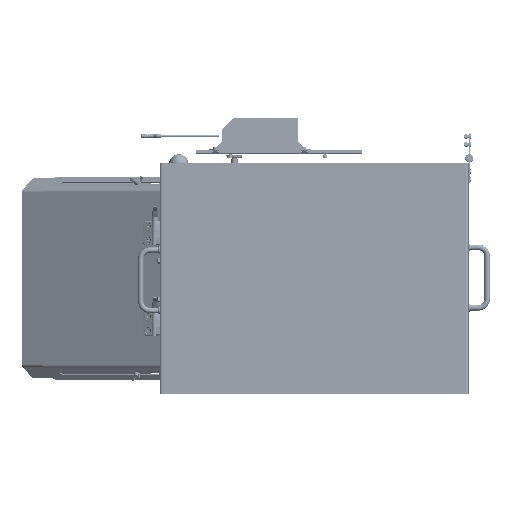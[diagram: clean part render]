
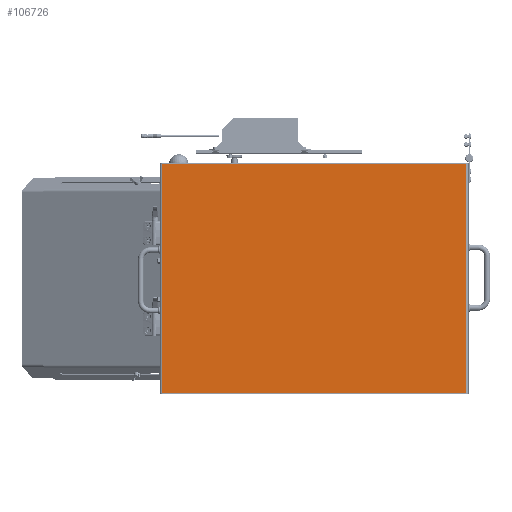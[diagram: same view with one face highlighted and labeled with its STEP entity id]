
A CAD part, front view. The second image highlights one B-rep face of the part: STEP entity #106726.
In plain terms, the highlighted planar face has unit normal (0, -1, 0).
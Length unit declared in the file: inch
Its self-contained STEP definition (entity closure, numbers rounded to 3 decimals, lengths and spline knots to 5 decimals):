
#4352 = VECTOR ( 'NONE', #154854, 39.37008 ) ;
#7183 = CARTESIAN_POINT ( 'NONE',  ( 9., 0., 11.91 ) ) ;
#7282 = CARTESIAN_POINT ( 'NONE',  ( -9., 0., -11.91 ) ) ;
#7873 = DIRECTION ( 'NONE',  ( 0., 0., -1. ) ) ;
#20034 = FACE_OUTER_BOUND ( 'NONE', #174687, .T. ) ;
#32482 = DIRECTION ( 'NONE',  ( 1., 0., 0. ) ) ;
#39626 = DIRECTION ( 'NONE',  ( -1., 0., 0. ) ) ;
#40184 = VERTEX_POINT ( 'NONE', #115711 ) ;
#48147 = CARTESIAN_POINT ( 'NONE',  ( -9., 0., 12.035 ) ) ;
#52265 = VECTOR ( 'NONE', #32482, 39.37008 ) ;
#53821 = EDGE_CURVE ( 'NONE', #103777, #164620, #140226, .T. ) ;
#64690 = DIRECTION ( 'NONE',  ( 0., -1., 0. ) ) ;
#85011 = AXIS2_PLACEMENT_3D ( 'NONE', #106637, #64690, #7873 ) ;
#85422 = VECTOR ( 'NONE', #39626, 39.37008 ) ;
#89642 = CARTESIAN_POINT ( 'NONE',  ( -9., 0., 11.91 ) ) ;
#95300 = LINE ( 'NONE', #167893, #4352 ) ;
#96414 = VERTEX_POINT ( 'NONE', #142784 ) ;
#103777 = VERTEX_POINT ( 'NONE', #7183 ) ;
#106637 = CARTESIAN_POINT ( 'NONE',  ( -9., 0., 12.035 ) ) ;
#106726 = ADVANCED_FACE ( 'NONE', ( #20034 ), #149429, .T. ) ;
#107662 = CARTESIAN_POINT ( 'NONE',  ( 9., 0., 11.91 ) ) ;
#114709 = VECTOR ( 'NONE', #131996, 39.37008 ) ;
#115711 = CARTESIAN_POINT ( 'NONE',  ( 9., 0., -11.91 ) ) ;
#118366 = ORIENTED_EDGE ( 'NONE', *, *, #135216, .T. ) ;
#119818 = LINE ( 'NONE', #48147, #114709 ) ;
#123608 = ORIENTED_EDGE ( 'NONE', *, *, #53821, .T. ) ;
#131996 = DIRECTION ( 'NONE',  ( 0., 0., -1. ) ) ;
#135216 = EDGE_CURVE ( 'NONE', #96414, #40184, #147037, .T. ) ;
#136227 = ORIENTED_EDGE ( 'NONE', *, *, #161395, .T. ) ;
#140226 = LINE ( 'NONE', #107662, #85422 ) ;
#142784 = CARTESIAN_POINT ( 'NONE',  ( -9., 0., -11.91 ) ) ;
#147037 = LINE ( 'NONE', #7282, #52265 ) ;
#149429 = PLANE ( 'NONE',  #85011 ) ;
#154854 = DIRECTION ( 'NONE',  ( 0., 0., -1. ) ) ;
#161395 = EDGE_CURVE ( 'NONE', #164620, #96414, #119818, .T. ) ;
#164620 = VERTEX_POINT ( 'NONE', #89642 ) ;
#167893 = CARTESIAN_POINT ( 'NONE',  ( 9., 0., 12.035 ) ) ;
#174687 = EDGE_LOOP ( 'NONE', ( #136227, #118366, #182291, #123608 ) ) ;
#176000 = EDGE_CURVE ( 'NONE', #103777, #40184, #95300, .T. ) ;
#182291 = ORIENTED_EDGE ( 'NONE', *, *, #176000, .F. ) ;
